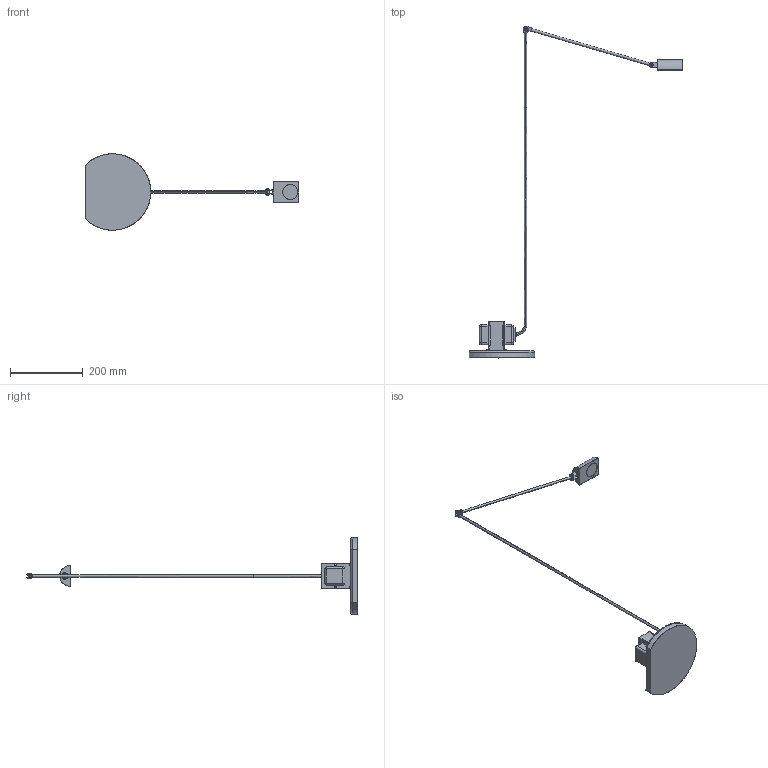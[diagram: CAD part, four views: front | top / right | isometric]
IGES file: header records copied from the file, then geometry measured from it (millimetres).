
Start section: SolidWorks IGES file using analytic representation for surfaces
Global section: file name: F:\燠隴矨\3D\2024-8堎\Dynamo Floor Lamp.IGS; native system: SolidWorks 2022; preprocessor: SolidWorks 2022; author: MyPC; date: 240814.173841; units: millimetre
Bounding box: 586.84 x 911.03 x 209.93 mm (x, y, z)
Surface area: 182870.4 mm2 (no closed solid volume)
Topology: 0 solids, 0 shells, 238 faces, 2895 edges, 2887 vertices
Faces by surface type: bspline 156, revolution 82
